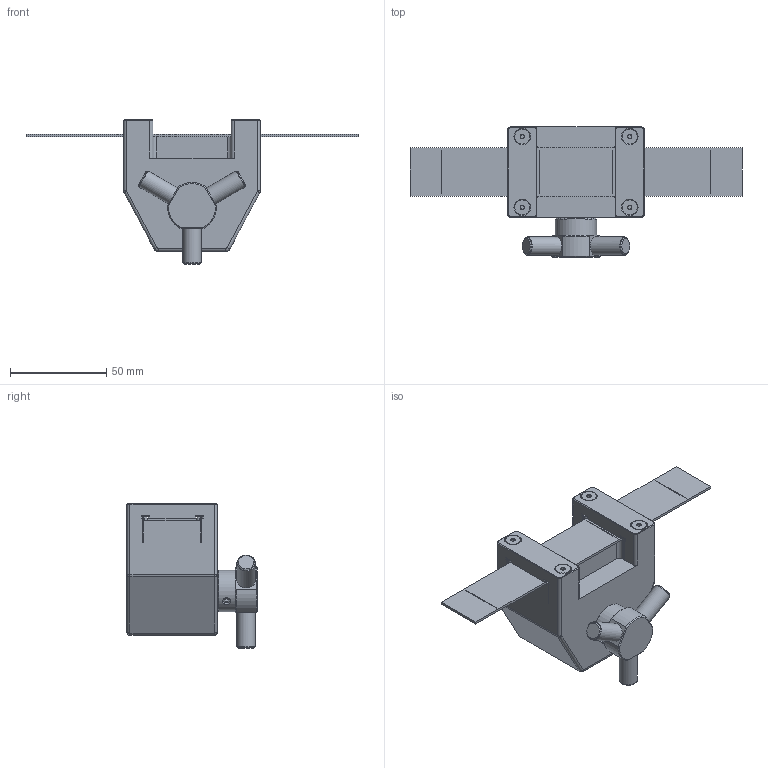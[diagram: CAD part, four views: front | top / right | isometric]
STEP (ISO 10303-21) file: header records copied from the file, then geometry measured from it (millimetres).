
FILE_DESCRIPTION((''),'2;1');
FILE_NAME('F:\CAD files\Itr\3D MARKETING MODELS\GRIPS\G1098\G1098.stp','2017-04-20T12:56:57',('mlampen'),(''),'Autodesk Inventor 2010','Autodesk Inventor 2010','');
FILE_SCHEMA(('AUTOMOTIVE_DESIGN { 1 0 10303 214 1 1 1 1 }'));
Length unit declared in the file: inch
Products named in the file (4): Assembly1; Part2; Part4; Part6
Assembly tree (3 placements, depth 2):
  Assembly1
    Part2
    Part4
    Part6
Bounding box: 172.72 x 67.69 x 75.36 mm (x, y, z)
Volume: 193429.1 mm3; surface area: 39492.5 mm2
Topology: 7 solids, 7 shells, 330 faces, 959 edges, 669 vertices
Faces by surface type: plane 122, cylinder 102, cone 55, bspline 47, torus 4
Full cylindrical faces by diameter (mm): 3.81 x4, 3.861 x3, 4.166 x2, 4.826 x3, 7.798 x4, 7.938 x1, 9.144 x3, 9.525 x3, 21.59 x1
Entity records: 13663 total; most frequent: CARTESIAN_POINT 5569, ORIENTED_EDGE 1812, DIRECTION 1503, EDGE_CURVE 906, VERTEX_POINT 657, AXIS2_PLACEMENT_3D 561, EDGE_LOOP 407, VECTOR 381
